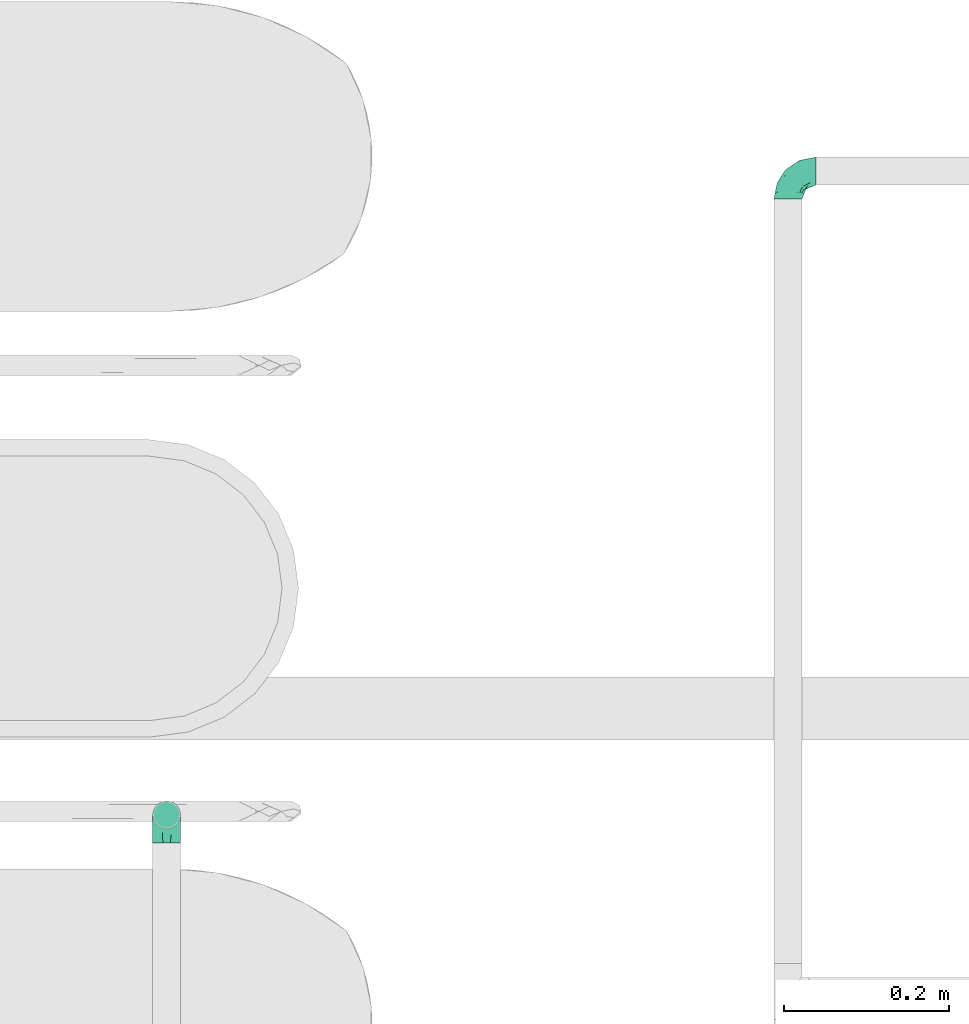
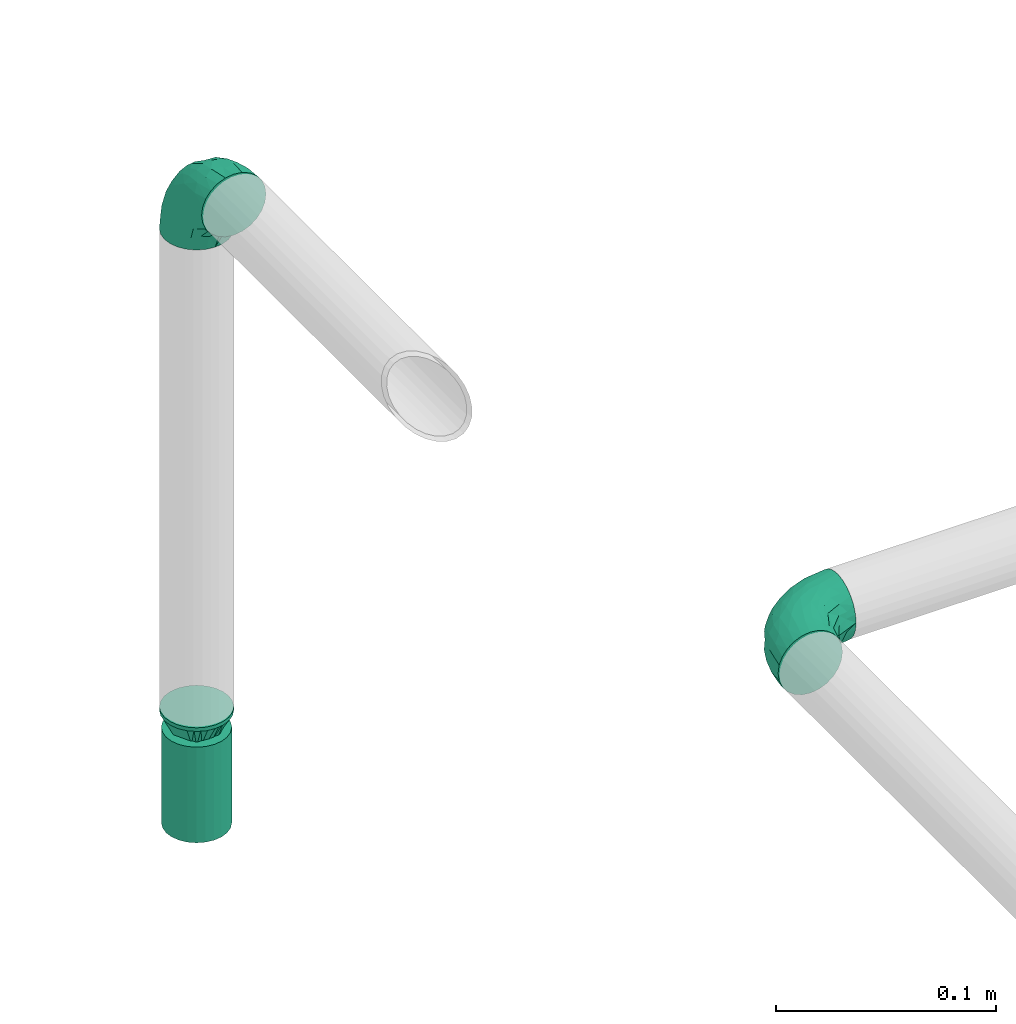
# One storey, part 47 of 95: 3 flow fittings, 1 flow terminal.
"""IFC2X3 building model written with IfcOpenShell, lengths in millimetres."""

from ifc_helpers import new_model, entity, si_unit, converted_unit, derived_unit, direction, frame, origin_with_axes, place, context, subcontext, project, spatial, open_shell, surface_model, source, transform, mapped, type_object, element, save


model = new_model("IFC2X3")

# Units and contexts
model_context = context("Model", 3, precision=0.01, world=frame((0.0, 4.29681676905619e-09, 0.0)), true_north=direction((4.01073788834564e-13, 1.0)))
plan_context = context("Plan", 3, precision=0.01, world=frame((0.0, 4.29681676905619e-09, 0.0)), true_north=direction((4.01073788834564e-13, 1.0)))
body_context = subcontext(model_context, "Body", "Model", "MODEL_VIEW")
ifc_project = project(units=[converted_unit("PLANEANGLEUNIT", "DEGREE", entity("IfcPositiveLengthMeasure", 0.0174532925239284), si_unit("PLANEANGLEUNIT", "RADIAN"), dimensions=[0, 0, 0, 0, 0, 0, 0]), si_unit("AREAUNIT", "SQUARE_METRE"), si_unit("LENGTHUNIT", "METRE", prefix="MILLI"), si_unit("MASSUNIT", "GRAM", prefix="KILO"), si_unit("POWERUNIT", "WATT"), si_unit("PRESSUREUNIT", "PASCAL"), si_unit("FORCEUNIT", "NEWTON", prefix="KILO"), si_unit("ELECTRICVOLTAGEUNIT", "VOLT"), si_unit("ELECTRICCURRENTUNIT", "AMPERE"), si_unit("THERMODYNAMICTEMPERATUREUNIT", "DEGREE_CELSIUS"), si_unit("TIMEUNIT", "SECOND"), si_unit("VOLUMEUNIT", "CUBIC_METRE"), derived_unit("LINEARVELOCITYUNIT", [(si_unit("LENGTHUNIT", "METRE"), 1), (si_unit("TIMEUNIT", "SECOND"), -1)]), derived_unit("VOLUMETRICFLOWRATEUNIT", [(si_unit("VOLUMEUNIT", "CUBIC_METRE"), 1), (si_unit("TIMEUNIT", "SECOND"), -1)]), derived_unit("THERMALTRANSMITTANCEUNIT", [(si_unit("POWERUNIT", "WATT"), 1), (si_unit("THERMODYNAMICTEMPERATUREUNIT", "KELVIN"), -1), (si_unit("AREAUNIT", "SQUARE_METRE"), -1)]), derived_unit("SOUNDPRESSUREUNIT", [(si_unit("PRESSUREUNIT", "PASCAL"), 1)])], contexts=[model_context, plan_context])

# Site, building, storey
site_placement = place(None, frame((0.0, -4.29681676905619e-09, 0.0), z_axis=(0.0, 0.0, 1.0), x_axis=(1.0, 0.0, 0.0)))
site = spatial("IfcSite", under=ifc_project, at=site_placement, CompositionType="ELEMENT")
building_placement = place(site_placement, frame((0.0, 4.29681676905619e-09, 0.0), z_axis=(0.0, 0.0, 1.0), x_axis=(1.0, 0.0, 0.0)))
building = spatial("IfcBuilding", under=site, at=building_placement, Name="mc-building", CompositionType="ELEMENT")
storey_placement = place(building_placement, frame((0.0, 0.0, 210900.0), z_axis=(0.0, 0.0, 1.0), x_axis=(1.0, 0.0, 0.0)))
storey = spatial("IfcBuildingStorey", under=building, at=storey_placement, Name="Nivå F", CompositionType="ELEMENT", Elevation=210900.0)

# Flow fittings
pipe_fitting_type_1 = type_object("IfcPipeFittingType", Name="magi_pipe_fe_reducer_centric_short_NOR", PredefinedType="TRANSITION")
shared_shape_1 = source(origin_with_axes(), body_context, "Body", "SurfaceModel", [
    surface_model("IfcShellBasedSurfaceModel", [(14.4, 5.35, -9.26647), (14.4, 0.0, -10.7), (14.4, 2.76936, -10.33541), (14.4, 10.33541, -2.76936), (14.4, 7.56604, -7.56604), (14.4, -10.33541, -2.76936), (14.4, 9.26647, -5.35), (14.4, 0.0, 10.7), (14.4, -5.35, -9.26647), (14.4, -2.76936, -10.33541), (14.4, -7.56604, -7.56604), (14.4, -9.26647, -5.35), (14.4, 10.7, 0.0), (14.4, 10.33541, 2.76936), (14.4, 9.26647, 5.35), (14.4, 7.56604, 7.56604), (14.4, 2.76936, 10.33541), (14.4, 5.35, 9.26647), (14.4, -10.33541, 2.76936), (14.4, -7.56604, 7.56604), (14.4, -9.26647, 5.35), (14.4, -10.7, 0.0), (14.4, -2.76936, 10.33541), (14.4, -5.35, 9.26647), (12.4, 2.76936, 10.33541), (12.4, -10.33541, -2.76936), (12.4, 0.0, 10.7), (12.4, 5.35, 9.26647), (12.4, 7.56604, 7.56604), (12.4, 9.26647, 5.35), (12.4, 10.33541, 2.76936), (12.4, -10.33541, 2.76936), (12.4, -2.76936, 10.33541), (12.4, -7.56604, 7.56604), (12.4, -5.35, 9.26647), (12.4, -9.26647, 5.35), (12.4, -10.7, 0.0), (12.4, 10.33541, -2.76936), (12.4, 5.35, -9.26647), (12.4, 9.26647, -5.35), (12.4, 7.56604, -7.56604), (12.4, 2.76936, -10.33541), (12.4, -9.26647, -5.35), (12.4, -5.35, -9.26647), (12.4, -7.56604, -7.56604), (12.4, 0.0, -10.7), (12.4, -2.76936, -10.33541), (12.4, 10.7, 0.0), (-2.0, 11.9501, 11.9501), (-2.0, 0.0, 16.9), (-2.0, 4.37404, 16.32415), (-2.0, 8.45, 14.63583), (-2.0, 14.63583, 8.45), (-2.0, 16.32415, 4.37404), (-2.0, -16.32415, 4.37404), (-2.0, -8.45, 14.63583), (-2.0, -14.63583, 8.45), (-2.0, -11.9501, 11.9501), (-2.0, -4.37404, 16.32415), (-2.0, -16.32415, -4.37404), (-2.0, -16.9, 0.0), (-2.0, -8.45, -14.63583), (-2.0, 16.32415, -4.37404), (-2.0, 11.9501, -11.9501), (-2.0, 14.63583, -8.45), (-2.0, 8.45, -14.63583), (-2.0, 4.37404, -16.32415), (-2.0, 0.0, -16.9), (-2.0, -11.9501, -11.9501), (-2.0, -14.63583, -8.45), (-2.0, -4.37404, -16.32415), (-2.0, 16.9, 0.0), (0.0, 4.37404, -16.32415), (0.0, 8.45, -14.63583), (0.0, 11.9501, -11.9501), (0.0, 0.0, -16.9), (0.0, 16.32415, -4.37404), (0.0, 16.32415, 4.37404), (0.0, 14.63583, -8.45), (0.0, -8.45, -14.63583), (0.0, -4.37404, -16.32415), (0.0, -11.9501, -11.9501), (0.0, -16.32415, -4.37404), (0.0, -14.63583, -8.45), (0.0, -16.32415, 4.37404), (0.0, 16.9, 0.0), (0.0, 14.63583, 8.45), (0.0, 11.9501, 11.9501), (0.0, 4.37404, 16.32415), (0.0, 8.45, 14.63583), (0.0, 0.0, 16.9), (0.0, -14.63583, 8.45), (0.0, -16.9, 0.0), (0.0, -8.45, 14.63583), (0.0, -11.9501, 11.9501), (0.0, -4.37404, 16.32415), (12.4, 9.3625, -2.31662), (0.0, 14.42505, -5.97505), (0.0, 15.66253, -2.98753), (12.4, -6.6875, -6.94985), (0.0, -13.18758, -8.96258), (0.0, 2.98753, -15.66253), (12.4, 0.0, -9.26647), (12.4, 6.6875, -6.94985), (0.0, 8.96258, -13.18758), (12.4, -9.3625, -2.31662), (0.0, -15.66253, -2.98753), (0.0, -14.42505, -5.97505), (0.0, 5.97505, -14.42505), (0.0, -2.98753, -15.66253), (0.0, -8.96258, -13.18758), (0.0, 13.18758, -8.96258), (12.4, 8.025, -4.63324), (12.4, -2.675, -9.26647), (12.4, 2.675, -9.26647), (0.0, -5.97505, -14.42505), (12.4, -8.025, -4.63324), (12.4, -9.3625, 2.31662), (0.0, -14.42505, 5.97505), (0.0, -15.66253, 2.98753), (12.4, 6.6875, 6.94985), (0.0, 13.18758, 8.96258), (0.0, -2.98753, 15.66253), (12.4, 0.0, 9.26647), (12.4, -6.6875, 6.94985), (0.0, -8.96258, 13.18758), (12.4, 9.3625, 2.31662), (0.0, 15.66253, 2.98753), (0.0, 14.42505, 5.97505), (0.0, -5.97505, 14.42505), (0.0, 2.98753, 15.66253), (0.0, 8.96258, 13.18758), (0.0, -13.18758, 8.96258), (12.4, -8.025, 4.63324), (12.4, 2.675, 9.26647), (12.4, -2.675, 9.26647), (0.0, 5.97505, 14.42505), (12.4, 8.025, 4.63324)], [open_shell([[[0, 1, 2]], [[3, 0, 4]], [[5, 0, 3]], [[3, 4, 6]], [[7, 5, 3]], [[1, 8, 9]], [[1, 0, 8]], [[10, 5, 11]], [[5, 10, 8]], [[0, 5, 8]], [[3, 12, 13]], [[13, 14, 15]], [[13, 15, 16]], [[7, 3, 16]], [[16, 15, 17]], [[7, 18, 5]], [[18, 19, 20]], [[21, 5, 18]], [[19, 22, 23]], [[22, 19, 18]], [[7, 22, 18]], [[13, 16, 3]], [[24, 25, 26]], [[27, 25, 24]], [[28, 29, 30]], [[28, 25, 27]], [[31, 26, 25]], [[32, 33, 34]], [[33, 32, 31]], [[33, 31, 35]], [[32, 26, 31]], [[31, 25, 36]], [[30, 37, 28]], [[25, 28, 37]], [[38, 37, 39]], [[37, 38, 25]], [[38, 39, 40]], [[41, 25, 38]], [[42, 43, 44]], [[43, 42, 25]], [[43, 45, 46]], [[43, 25, 41]], [[41, 45, 43]], [[37, 30, 47]], [[25, 5, 36]], [[42, 11, 25]], [[8, 44, 43]], [[42, 44, 10]], [[9, 43, 46]], [[25, 11, 5]], [[5, 21, 36]], [[9, 8, 43]], [[10, 44, 8]], [[10, 11, 42]], [[1, 9, 46]], [[46, 45, 1]], [[41, 2, 45]], [[38, 0, 41]], [[6, 40, 39]], [[38, 40, 4]], [[3, 39, 37]], [[38, 4, 0]], [[0, 2, 41]], [[12, 3, 37]], [[6, 39, 3]], [[6, 4, 40]], [[47, 12, 37]], [[45, 2, 1]], [[30, 13, 47]], [[29, 14, 30]], [[17, 28, 27]], [[29, 28, 15]], [[16, 27, 24]], [[30, 14, 13]], [[13, 12, 47]], [[16, 17, 27]], [[15, 28, 17]], [[15, 14, 29]], [[7, 16, 24]], [[24, 26, 7]], [[32, 22, 26]], [[34, 23, 32]], [[20, 33, 35]], [[34, 33, 19]], [[18, 35, 31]], [[34, 19, 23]], [[23, 22, 32]], [[21, 18, 31]], [[20, 35, 18]], [[20, 19, 33]], [[36, 21, 31]], [[26, 22, 7]], [[48, 49, 50]], [[48, 50, 51]], [[48, 52, 53]], [[48, 53, 49]], [[49, 53, 54]], [[55, 56, 57]], [[55, 58, 49]], [[56, 55, 49]], [[49, 54, 56]], [[54, 59, 60]], [[54, 53, 61]], [[53, 62, 63]], [[63, 62, 64]], [[63, 65, 66]], [[61, 53, 63]], [[67, 63, 66]], [[59, 68, 69]], [[68, 59, 61]], [[61, 67, 70]], [[59, 54, 61]], [[63, 67, 61]], [[53, 71, 62]], [[72, 73, 74]], [[75, 72, 74]], [[74, 76, 77]], [[76, 74, 78]], [[74, 77, 79]], [[75, 79, 80]], [[75, 74, 79]], [[81, 82, 83]], [[82, 81, 79]], [[79, 84, 82]], [[77, 76, 85]], [[77, 86, 87]], [[77, 87, 88]], [[88, 84, 79]], [[88, 87, 89]], [[84, 88, 90]], [[90, 91, 84]], [[92, 82, 84]], [[91, 93, 94]], [[91, 90, 93]], [[93, 90, 95]], [[79, 77, 88]], [[59, 82, 60]], [[69, 83, 59]], [[79, 68, 61]], [[69, 68, 81]], [[80, 61, 70]], [[59, 83, 82]], [[82, 92, 60]], [[80, 79, 61]], [[81, 68, 79]], [[81, 83, 69]], [[75, 80, 70]], [[70, 67, 75]], [[66, 72, 67]], [[65, 73, 66]], [[78, 63, 64]], [[65, 63, 74]], [[76, 64, 62]], [[65, 74, 73]], [[73, 72, 66]], [[85, 76, 62]], [[78, 64, 76]], [[78, 74, 63]], [[71, 85, 62]], [[67, 72, 75]], [[53, 77, 71]], [[52, 86, 53]], [[89, 48, 51]], [[52, 48, 87]], [[88, 51, 50]], [[53, 86, 77]], [[77, 85, 71]], [[88, 89, 51]], [[87, 48, 89]], [[87, 86, 52]], [[90, 88, 50]], [[50, 49, 90]], [[58, 95, 49]], [[55, 93, 58]], [[91, 57, 56]], [[55, 57, 94]], [[84, 56, 54]], [[55, 94, 93]], [[93, 95, 58]], [[92, 84, 54]], [[91, 56, 84]], [[91, 94, 57]], [[60, 92, 54]], [[49, 95, 90]], [[27, 34, 47]], [[47, 34, 43]], [[43, 38, 47]], [[43, 34, 36]], [[90, 87, 94]], [[92, 94, 87]], [[87, 74, 92]], [[75, 92, 74]], [[81, 92, 75]], [[74, 87, 85]], [[96, 97, 98]], [[81, 99, 100]], [[101, 102, 75]], [[98, 85, 47]], [[74, 103, 104]], [[104, 103, 38]], [[105, 106, 107]], [[38, 108, 104]], [[102, 109, 75]], [[110, 99, 81]], [[47, 96, 98]], [[103, 111, 112]], [[109, 102, 113]], [[36, 92, 106]], [[102, 101, 114]], [[110, 115, 43]], [[96, 112, 97]], [[107, 116, 105]], [[36, 106, 105]], [[113, 115, 109]], [[43, 115, 113]], [[116, 107, 100]], [[108, 38, 114]], [[111, 103, 74]], [[111, 97, 112]], [[99, 110, 43]], [[116, 100, 99]], [[101, 108, 114]], [[117, 118, 119]], [[87, 120, 121]], [[122, 123, 90]], [[119, 92, 36]], [[94, 124, 125]], [[125, 124, 34]], [[126, 127, 128]], [[34, 129, 125]], [[123, 130, 90]], [[131, 120, 87]], [[36, 117, 119]], [[124, 132, 133]], [[130, 123, 134]], [[47, 85, 127]], [[123, 122, 135]], [[131, 136, 27]], [[117, 133, 118]], [[128, 137, 126]], [[47, 127, 126]], [[134, 136, 130]], [[27, 136, 134]], [[137, 128, 121]], [[129, 34, 135]], [[132, 124, 94]], [[132, 118, 133]], [[120, 131, 27]], [[137, 121, 120]], [[122, 129, 135]]])]),
])
flow_fitting_placement = place(storey_placement, frame((531686.19805, 441731.98794, 3769.35200000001), z_axis=(0.0, -1.0, 0.0), x_axis=(0.0, 0.0, -1.0)))
element("IfcFlowFitting", 1, at=flow_fitting_placement, inside=storey, type_object=pipe_fitting_type_1, Name="magi_pipe_fe_reducer_centric_short_NOR", context=body_context, shape_type="MappedRepresentation", body=[
    mapped(shared_shape_1, transform((0.0, 0.0, 0.0), scale=1.0)),
])
pipe_fitting_type_2 = type_object("IfcPipeFittingType", Name="magi_pipe_fe_elbow_short_001", PredefinedType="BEND")
shared_shape_2 = source(origin_with_axes(), body_context, "Body", "SurfaceModel", [
    surface_model("IfcShellBasedSurfaceModel", [(-33.8, 8.45, -14.63583), (-33.8, 4.37404, -16.32415), (-33.8, 11.9501, -11.9501), (-33.8, -11.9501, -11.9501), (-33.8, -14.63583, -8.45), (-33.8, -8.45, -14.63583), (-33.8, 0.0, -16.9), (-33.8, -4.37404, -16.32415), (-33.8, -4.37404, 16.32415), (-33.8, 0.0, 16.9), (-33.8, -8.45, 14.63583), (-33.8, 16.32415, -4.37404), (-33.8, 14.63583, -8.45), (-33.8, -16.32415, -4.37404), (-33.8, -16.9, 0.0), (-33.8, -16.32415, 4.37404), (-33.8, 11.9501, 11.9501), (-33.8, 14.63583, 8.45), (-33.8, 16.32415, 4.37404), (-33.8, 4.37404, 16.32415), (-33.8, 8.45, 14.63583), (-33.8, -14.63583, 8.45), (-33.8, -11.9501, 11.9501), (-33.8, 16.9, 0.0), (-11.9501, 33.8, -11.9501), (0.0, 33.8, -16.9), (-4.37404, 33.8, -16.32415), (-8.45, 33.8, -14.63583), (-14.63583, 33.8, -8.45), (-16.32415, 33.8, -4.37404), (14.63583, 33.8, -8.45), (8.45, 33.8, 14.63583), (16.32415, 33.8, -4.37404), (8.45, 33.8, -14.63583), (11.9501, 33.8, -11.9501), (4.37404, 33.8, -16.32415), (16.32415, 33.8, 4.37404), (16.9, 33.8, 0.0), (-11.9501, 33.8, 11.9501), (-16.32415, 33.8, 4.37404), (-14.63583, 33.8, 8.45), (-8.45, 33.8, 14.63583), (-4.37404, 33.8, 16.32415), (11.9501, 33.8, 11.9501), (14.63583, 33.8, 8.45), (0.0, 33.8, 16.9), (4.37404, 33.8, 16.32415), (-16.9, 33.8, 0.0), (-24.79389, -13.12945, 9.48721), (-22.19287, -9.75018, 12.59315), (-24.09897, -14.97035, 0.0), (-14.93934, -10.76256, 8.5297), (-22.46095, -14.75051, 5.27077), (14.75051, 22.46094, 5.27077), (11.9251, 13.23888, 4.33236), (13.04069, 14.39795, 0.0), (7.71387, 13.68847, 11.55891), (9.75018, 22.19287, 12.59315), (4.10169, 13.0571, 14.04018), (-24.84007, -6.39063, 15.2048), (-25.81779, -2.23879, 16.61097), (-23.66549, 2.59054, 16.87119), (-26.50418, 14.06512, 11.08152), (-24.21253, 17.66365, 7.72657), (-29.58514, 15.86957, 7.00283), (-6.17382, -7.5455, 0.0), (-13.23888, -11.9251, 4.33236), (-14.39795, -13.04069, 0.0), (-17.81434, 18.87373, 11.97104), (-6.30846, 29.15138, 15.82987), (-2.31622, 25.28002, 16.85849), (-29.23923, 10.23435, 13.77053), (-1.45439, -2.85688, 7.61475), (-0.28326, 0.34872, 10.09509), (-5.74484, -4.04709, 10.4122), (-4.41137, 11.31918, 16.59407), (-8.39727, 3.10034, 15.7812), (-1.72649, 9.1306, 15.53089), (-17.39909, 24.75344, 7.64977), (-26.19233, 20.0512, 0.0), (-28.14518, 17.29657, 4.25857), (-26.05147, 6.6281, 15.96447), (-5.87354, 16.61944, 16.86968), (-12.51807, 12.51807, 16.48937), (-10.06312, 7.38516, 16.81295), (-3.01882, 3.01882, 13.81718), (-13.0571, -4.10169, 14.04018), (-16.82553, -0.15166, 16.38038), (10.76256, 14.93934, 8.5297), (13.12945, 24.79389, 9.48721), (6.39063, 24.84007, 15.2048), (2.23879, 25.81779, 16.61097), (-13.68847, -7.71387, 11.55891), (14.97035, 24.09897, 0.0), (-7.30894, 22.89991, 16.09489), (-10.67958, 26.17414, 14.008), (-12.78295, 18.26924, 15.06066), (-13.88562, 22.45231, 12.93244), (-18.04944, 15.16501, 14.04434), (-23.11658, 20.08178, 4.02986), (-21.84989, 21.84989, 0.0), (-18.55817, 25.48277, 3.93065), (-13.95142, 26.94732, 11.03289), (-18.57098, 7.23906, 16.59756), (-16.58335, 4.14122, 16.89279), (-17.96666, 11.46709, 15.63151), (-9.84453, 17.54304, 16.18938), (0.15166, 16.82553, 16.38038), (-23.27207, 11.47201, 14.23154), (3.84842, 5.86994, 10.70473), (-8.0212, -7.54413, 7.93275), (1.00345, -2.19508, 4.57414), (5.13203, 3.01004, 5.90201), (5.24161, 1.7543, 2.53265), (8.70457, 7.04947, 3.99182), (-20.0512, 26.19233, 0.0), (8.4852, 8.76699, 7.09296), (-4.55488, -6.72064, 4.90681), (2.05031, -2.05031, 0.0), (7.5455, 6.17382, 0.0), (-26.75399, 2.1369, -16.845), (-14.61995, 24.73803, -11.27736), (-28.45274, -13.45335, -9.81895), (-26.00469, 6.63555, -15.96645), (-23.06726, 20.04573, -4.26202), (-13.80647, -4.26506, -14.17873), (-14.67501, -0.21081, -16.07388), (-6.7902, -0.2828, -13.8478), (-24.53586, 11.08096, -14.13417), (-26.72048, 14.00837, -11.05776), (10.0967, 24.44989, -12.75976), (5.83237, 21.40218, -15.03047), (6.66249, 28.54238, -15.38093), (-20.38182, 15.48705, -12.74596), (12.53268, 21.23441, -9.15363), (12.54494, 15.67504, -5.54878), (9.7522, 12.89279, -8.66343), (-15.65186, 19.64213, -13.01327), (-12.03528, 20.66498, -14.67665), (-15.61907, 15.61906, -14.83879), (-25.56551, -15.26206, 0.0), (-24.65452, -15.12934, -5.50955), (13.45335, 28.45274, -9.81895), (15.12934, 24.65452, -5.50955), (-7.35442, -8.31014, -5.65563), (-15.67504, -12.54494, -5.54878), (-24.44989, -10.0967, -12.75976), (0.16522, 0.41303, -9.71728), (-5.70658, -5.33066, -8.89288), (-5.13869, -2.37198, -11.53565), (-21.23441, -12.53268, -9.15363), (0.71146, 7.93863, -14.09382), (0.21081, 14.67501, -16.07388), (3.49291, 14.42772, -14.76381), (-24.89911, -2.13088, -16.591), (-28.54238, -6.66249, -15.38093), (-18.44386, -7.71663, -13.26957), (2.13088, 24.89911, -16.591), (-28.64342, 17.44413, -2.89318), (1.70017, -1.28722, -5.09504), (-16.57067, 26.81947, -7.36596), (-17.69055, 27.4263, -3.76405), (-12.89279, -9.7522, -8.66343), (-5.96611, 5.96611, -15.95814), (-20.53709, 20.09345, -8.28985), (-2.1369, 26.75399, -16.845), (-6.89872, 24.58781, -16.02578), (-10.60739, 26.53157, -13.98044), (-21.40218, -5.83237, -15.03047), (2.93192, 5.89627, -11.55917), (6.89393, 12.61842, -11.82233), (5.58056, 5.95325, -8.79455), (-3.99512, 18.61798, -16.89635), (8.31014, 7.35442, -5.65563), (-9.1383, 9.86148, -16.89041), (-9.99983, 16.02119, -16.39699), (-16.68576, 9.78031, -16.34199), (-27.01915, 16.61158, -7.12979), (15.26206, 25.56551, 0.0), (-18.61798, 3.99512, -16.89635), (-19.37495, 27.82495, 0.0), (-12.61842, -6.89393, -11.82233), (-18.84705, 19.14018, -10.96545)], [open_shell([[[0, 1, 2]], [[3, 4, 5]], [[6, 7, 5]], [[8, 9, 10]], [[1, 6, 2]], [[11, 12, 2]], [[4, 2, 6]], [[2, 13, 10]], [[5, 4, 6]], [[2, 4, 13]], [[14, 15, 13]], [[11, 2, 16]], [[11, 17, 18]], [[11, 16, 17]], [[19, 20, 16]], [[16, 2, 10]], [[19, 16, 10]], [[21, 22, 15]], [[22, 13, 15]], [[22, 10, 13]], [[10, 9, 19]], [[11, 18, 23]], [[24, 25, 26]], [[24, 26, 27]], [[24, 28, 29]], [[25, 24, 30]], [[31, 32, 24]], [[33, 30, 34]], [[33, 35, 25]], [[25, 30, 33]], [[32, 30, 24]], [[32, 36, 37]], [[38, 24, 29]], [[39, 40, 29]], [[40, 38, 29]], [[38, 41, 42]], [[38, 31, 24]], [[31, 38, 42]], [[36, 43, 44]], [[36, 32, 43]], [[31, 45, 46]], [[32, 31, 43]], [[42, 45, 31]], [[39, 29, 47]], [[22, 48, 49]], [[15, 14, 50]], [[51, 48, 52]], [[53, 54, 55]], [[48, 22, 21]], [[15, 52, 21]], [[56, 57, 58]], [[49, 10, 22]], [[49, 59, 10]], [[9, 60, 61]], [[62, 63, 64]], [[65, 66, 67]], [[57, 43, 31]], [[62, 68, 63]], [[42, 69, 70]], [[20, 71, 16]], [[8, 60, 9]], [[72, 73, 74]], [[75, 76, 77]], [[16, 62, 17]], [[40, 39, 78]], [[79, 23, 80]], [[64, 18, 17]], [[9, 61, 19]], [[19, 81, 20]], [[82, 83, 84]], [[74, 85, 86]], [[59, 86, 87]], [[88, 89, 57]], [[90, 31, 46]], [[44, 53, 36]], [[46, 45, 91]], [[54, 53, 88]], [[44, 89, 53]], [[92, 86, 49]], [[89, 44, 43]], [[10, 59, 8]], [[53, 55, 93]], [[93, 36, 53]], [[66, 52, 67]], [[94, 82, 70]], [[95, 96, 94]], [[97, 98, 96]], [[79, 99, 100]], [[41, 38, 95]], [[101, 100, 99]], [[68, 78, 63]], [[42, 41, 69]], [[23, 18, 80]], [[95, 94, 69]], [[78, 101, 99]], [[38, 102, 95]], [[70, 45, 42]], [[97, 95, 102]], [[15, 50, 52]], [[90, 57, 31]], [[57, 90, 58]], [[81, 19, 61]], [[103, 104, 84]], [[105, 81, 103]], [[38, 40, 102]], [[106, 96, 83]], [[94, 106, 82]], [[91, 70, 107]], [[71, 62, 16]], [[62, 108, 98]], [[86, 59, 49]], [[67, 52, 50]], [[60, 59, 87]], [[92, 49, 51]], [[86, 85, 76]], [[91, 90, 46]], [[37, 36, 93]], [[107, 77, 58]], [[107, 58, 90]], [[58, 85, 109]], [[110, 74, 92]], [[72, 74, 110]], [[66, 51, 52]], [[72, 111, 112]], [[113, 114, 112]], [[56, 88, 57]], [[52, 48, 21]], [[49, 48, 51]], [[57, 89, 43]], [[53, 89, 88]], [[103, 81, 61]], [[71, 81, 108]], [[18, 64, 80]], [[63, 78, 99]], [[47, 115, 101]], [[101, 115, 100]], [[40, 78, 102]], [[68, 102, 78]], [[97, 96, 95]], [[105, 98, 108]], [[103, 84, 83]], [[107, 70, 82]], [[76, 84, 87]], [[82, 84, 75]], [[70, 91, 45]], [[90, 91, 107]], [[59, 60, 8]], [[61, 60, 87]], [[73, 85, 74]], [[109, 112, 116]], [[103, 61, 104]], [[105, 103, 83]], [[96, 105, 83]], [[81, 105, 108]], [[96, 98, 105]], [[62, 98, 68]], [[61, 87, 104]], [[87, 84, 104]], [[86, 76, 87]], [[77, 76, 85]], [[58, 77, 85]], [[75, 77, 107]], [[82, 75, 107]], [[76, 75, 84]], [[81, 71, 20]], [[62, 71, 108]], [[95, 69, 41]], [[70, 69, 94]], [[62, 64, 17]], [[80, 63, 99]], [[63, 80, 64]], [[80, 99, 79]], [[66, 65, 117]], [[110, 66, 117]], [[112, 114, 116]], [[118, 117, 65]], [[110, 92, 51]], [[112, 111, 113]], [[119, 55, 54]], [[74, 86, 92]], [[58, 109, 56]], [[116, 56, 109]], [[66, 110, 51]], [[72, 110, 117]], [[111, 72, 117]], [[73, 112, 109]], [[117, 118, 111]], [[113, 111, 118]], [[118, 119, 113]], [[114, 119, 54]], [[119, 114, 113]], [[116, 54, 88]], [[54, 116, 114]], [[116, 88, 56]], [[112, 73, 72]], [[85, 73, 109]], [[78, 39, 101]], [[47, 101, 39]], [[102, 68, 97]], [[97, 68, 98]], [[82, 106, 83]], [[94, 96, 106]], [[1, 120, 6]], [[28, 24, 121]], [[3, 122, 4]], [[0, 123, 1]], [[100, 124, 79]], [[125, 126, 127]], [[128, 2, 129]], [[130, 131, 132]], [[128, 129, 133]], [[134, 135, 136]], [[137, 138, 139]], [[128, 0, 2]], [[67, 140, 141]], [[134, 142, 143]], [[141, 13, 4]], [[144, 65, 145]], [[146, 3, 5]], [[147, 148, 149]], [[145, 141, 150]], [[151, 152, 153]], [[154, 7, 6]], [[5, 155, 146]], [[150, 146, 156]], [[155, 5, 7]], [[143, 135, 134]], [[35, 157, 25]], [[23, 79, 158]], [[148, 159, 144]], [[160, 161, 29]], [[145, 162, 144]], [[163, 152, 151]], [[29, 28, 160]], [[121, 164, 160]], [[33, 34, 130]], [[25, 165, 26]], [[26, 165, 166]], [[142, 34, 30]], [[24, 27, 167]], [[124, 161, 164]], [[157, 35, 132]], [[155, 154, 168]], [[123, 0, 128]], [[169, 170, 171]], [[172, 157, 152]], [[26, 166, 27]], [[132, 35, 33]], [[142, 130, 34]], [[168, 154, 126]], [[136, 135, 173]], [[133, 137, 139]], [[2, 12, 129]], [[170, 131, 130]], [[30, 32, 143]], [[172, 174, 175]], [[176, 123, 128]], [[158, 177, 11]], [[135, 55, 119]], [[167, 27, 166]], [[175, 166, 172]], [[137, 167, 138]], [[122, 141, 4]], [[140, 14, 13]], [[32, 37, 178]], [[170, 130, 134]], [[152, 157, 131]], [[165, 157, 172]], [[153, 170, 151]], [[152, 163, 174]], [[168, 125, 156]], [[122, 146, 150]], [[120, 154, 6]], [[179, 174, 126]], [[179, 126, 154]], [[126, 163, 127]], [[162, 145, 150]], [[140, 13, 141]], [[32, 178, 143]], [[55, 143, 178]], [[177, 129, 12]], [[128, 133, 139]], [[176, 128, 139]], [[120, 123, 179]], [[121, 160, 28]], [[161, 100, 180]], [[166, 175, 138]], [[121, 24, 167]], [[161, 47, 29]], [[79, 124, 158]], [[124, 164, 177]], [[161, 124, 100]], [[136, 171, 170]], [[127, 163, 151]], [[147, 171, 159]], [[148, 144, 162]], [[127, 151, 169]], [[127, 181, 125]], [[129, 177, 164]], [[12, 11, 177]], [[159, 65, 144]], [[67, 141, 145]], [[143, 55, 135]], [[135, 119, 173]], [[123, 120, 1]], [[154, 120, 179]], [[157, 165, 25]], [[166, 165, 172]], [[172, 152, 174]], [[176, 139, 175]], [[126, 174, 163]], [[176, 174, 179]], [[174, 176, 175]], [[123, 176, 179]], [[150, 181, 162]], [[127, 149, 181]], [[181, 148, 162]], [[159, 148, 147]], [[171, 136, 173]], [[170, 134, 136]], [[159, 171, 173]], [[171, 147, 169]], [[169, 147, 149]], [[151, 170, 169]], [[164, 182, 129]], [[182, 121, 137]], [[181, 149, 148]], [[169, 149, 127]], [[182, 137, 133]], [[167, 137, 121]], [[166, 138, 167]], [[175, 139, 138]], [[129, 182, 133]], [[121, 182, 164]], [[161, 160, 164]], [[47, 161, 180]], [[177, 158, 124]], [[23, 158, 11]], [[130, 132, 33]], [[157, 132, 131]], [[143, 142, 30]], [[130, 142, 134]], [[154, 155, 7]], [[146, 155, 168]], [[146, 122, 3]], [[141, 122, 150]], [[152, 131, 153]], [[159, 119, 118]], [[67, 145, 65]], [[170, 153, 131]], [[119, 159, 173]], [[159, 118, 65]], [[156, 125, 181]], [[126, 125, 168]], [[150, 156, 181]], [[168, 156, 146]]])]),
])
for number, where, z_axis, x_axis, name in (
    (2, (532438.43666, 442511.46652, 3080.14999999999), (0.0, 0.0, 1.0), (-1.0, 0.0, 0.0), "magi_pipe_fe_elbow_short_001"),
    (3, (531686.19805, 441731.98794, 4070.0), (-1.0, 0.0, 0.0), (0.0, 1.0, 0.0), "magi_pipe_fe_elbow_short_001"),
):
    element("IfcFlowFitting", number, at=place(storey_placement, frame(where, z_axis=z_axis, x_axis=x_axis)), inside=storey, type_object=pipe_fitting_type_2, Name=name, context=body_context, shape_type="MappedRepresentation", body=[
        mapped(shared_shape_2, transform((0.0, 0.0, 0.0), scale=1.0)),
    ])

# Flow terminal
fire_suppression_terminal_type = type_object("IfcFireSuppressionTerminalType", Name="SP-15-K80-68DGR-STD-HIMLING", PredefinedType="NOTDEFINED")
shared_shape_3 = source(origin_with_axes(), body_context, "Body", "SurfaceModel", [
    surface_model("IfcShellBasedSurfaceModel", [(15.45481, -4.1411, 53.0), (13.85641, -8.0, 53.0), (15.45481, -4.1411, 0.0), (16.0, 0.0, 0.0), (16.0, 0.0, 53.0), (15.45481, 4.1411, 0.0), (13.85641, 8.0, 53.0), (15.45481, 4.1411, 53.0), (11.31371, 11.31371, 53.0), (8.0, 13.85641, 53.0), (4.1411, 15.45481, 53.0), (-8.0, 13.85641, 53.0), (-4.1411, 15.45481, 53.0), (0.0, 16.0, 53.0), (-11.31371, 11.31371, 53.0), (-13.85641, 8.0, 53.0), (-15.45481, 4.1411, 53.0), (11.31371, -11.31371, 53.0), (-16.0, 0.0, 53.0), (0.0, -16.0, 53.0), (4.1411, -15.45481, 53.0), (8.0, -13.85641, 53.0), (-13.85641, -8.0, 53.0), (-11.31371, -11.31371, 53.0), (-15.45481, -4.1411, 53.0), (-8.0, -13.85641, 53.0), (-4.1411, -15.45481, 53.0), (8.0, -13.85641, 0.0), (4.1411, -15.45481, 0.0), (0.0, -16.0, 0.0), (-4.1411, -15.45481, 0.0), (13.85641, -8.0, 0.0), (11.31371, -11.31371, 0.0), (-16.0, 0.0, 0.0), (-8.0, -13.85641, 0.0), (-11.31371, -11.31371, 0.0), (-13.85641, -8.0, 0.0), (-15.45481, -4.1411, 0.0), (4.1411, 15.45481, 0.0), (13.85641, 8.0, 0.0), (8.0, 13.85641, 0.0), (11.31371, 11.31371, 0.0), (-15.45481, 4.1411, 0.0), (-11.31371, 11.31371, 0.0), (-8.0, 13.85641, 0.0), (-13.85641, 8.0, 0.0), (-4.1411, 15.45481, 0.0), (0.0, 16.0, 0.0)], [open_shell([[[0, 1, 2]], [[3, 4, 0]], [[5, 6, 7]], [[7, 4, 3]], [[8, 9, 10]], [[8, 10, 11]], [[8, 4, 7]], [[6, 8, 7]], [[4, 8, 11]], [[12, 11, 13]], [[11, 10, 13]], [[14, 15, 11]], [[16, 11, 15]], [[11, 16, 4]], [[16, 0, 4]], [[17, 1, 0]], [[18, 17, 16]], [[19, 20, 21]], [[18, 21, 17]], [[21, 18, 19]], [[22, 23, 24]], [[18, 24, 23]], [[25, 26, 23]], [[18, 23, 26]], [[26, 19, 18]], [[0, 16, 17]], [[27, 28, 29]], [[27, 29, 30]], [[2, 31, 32]], [[32, 27, 33]], [[2, 32, 33]], [[34, 35, 30]], [[36, 30, 35]], [[36, 37, 30]], [[37, 27, 30]], [[37, 33, 27]], [[33, 5, 2]], [[38, 5, 33]], [[39, 5, 38]], [[38, 40, 41]], [[39, 38, 41]], [[33, 42, 38]], [[43, 44, 45]], [[42, 45, 44]], [[46, 47, 44]], [[38, 42, 44]], [[44, 47, 38]], [[5, 3, 2]], [[45, 42, 16]], [[45, 15, 43]], [[46, 44, 11]], [[14, 44, 43]], [[47, 46, 12]], [[33, 18, 42]], [[18, 16, 42]], [[16, 15, 45]], [[15, 14, 43]], [[44, 14, 11]], [[11, 12, 46]], [[12, 13, 47]], [[40, 38, 10]], [[40, 9, 41]], [[5, 39, 6]], [[8, 39, 41]], [[3, 5, 7]], [[13, 10, 38]], [[10, 9, 40]], [[9, 8, 41]], [[8, 6, 39]], [[47, 13, 38]], [[2, 3, 0]], [[31, 2, 1]], [[28, 27, 21]], [[29, 28, 20]], [[1, 17, 32]], [[17, 27, 32]], [[21, 27, 17]], [[21, 20, 28]], [[31, 1, 32]], [[20, 19, 29]], [[34, 30, 26]], [[34, 25, 35]], [[37, 36, 22]], [[23, 36, 35]], [[33, 37, 24]], [[19, 26, 30]], [[26, 25, 34]], [[25, 23, 35]], [[23, 22, 36]], [[37, 22, 24]], [[24, 18, 33]], [[29, 19, 30]]])]),
])
flow_terminal_placement = place(storey_placement, frame((531686.19805, 441731.98794, 3760.0), z_axis=(0.0, 0.0, -1.0), x_axis=(1.0, 0.0, 0.0)))
element("IfcFlowTerminal", 4, at=flow_terminal_placement, inside=storey, type_object=fire_suppression_terminal_type, Name="SP-15-K80-68DGR-STD-HIMLING", context=body_context, shape_type="MappedRepresentation", body=[
    mapped(shared_shape_3, transform((0.0, 0.0, 0.0), scale=1.0)),
])

save(model, "model.ifc")
